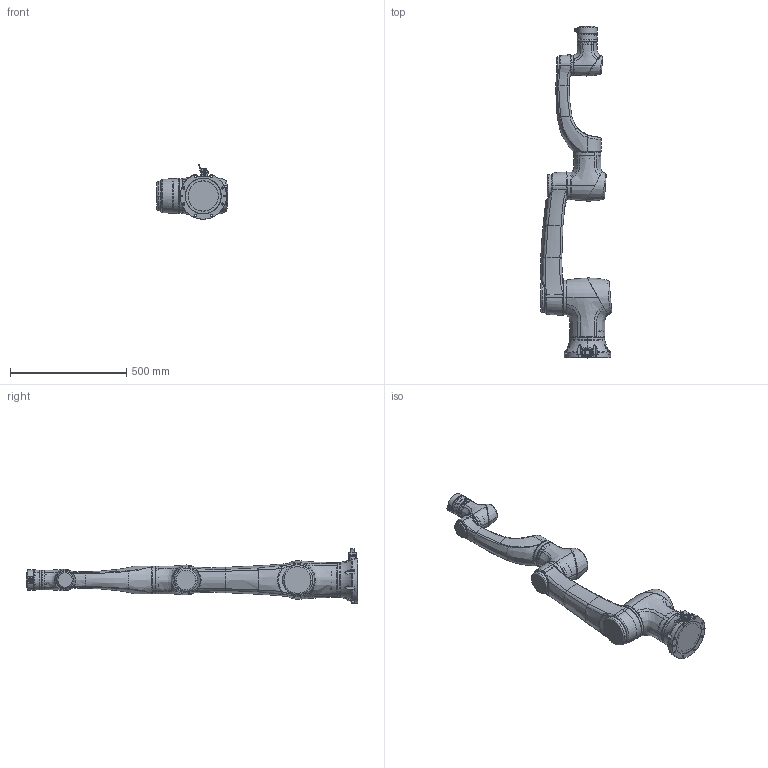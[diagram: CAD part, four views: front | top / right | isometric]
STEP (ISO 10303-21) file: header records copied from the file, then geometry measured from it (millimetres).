
FILE_DESCRIPTION (( 'STEP AP203' ), '1' );
FILE_NAME ('P10_潠趙_full.STEP', '2021-07-12T09:27:34', ( 'hans' ), ( 'hanslaser.com' ), 'SwSTEP 2.0', 'SolidWorks 2020', '' );
FILE_SCHEMA (( 'CONFIG_CONTROL_DESIGN' ));
Length unit declared in the file: millimetre
Products named in the file (8): P_32_潠趙_full; 17_IO藺傷_潠趙_full; P_10kg菁釱_潠趙_full; P10_潠趙_full; P_10kg奻旋_潠趙_full; P_10kg狟旋_潠趙_full; P_25_2_潠趙_full; P_17_潠趙_full
Assembly tree (7 placements, depth 2):
  P10_潠趙_full
    P_10kg菁釱_潠趙_full
    P_10kg奻旋_潠趙_full
    P_10kg狟旋_潠趙_full
    P_25_2_潠趙_full
    P_17_潠趙_full
    P_32_潠趙_full
    17_IO藺傷_潠趙_full
Bounding box: 307.08 x 1428 x 234.44 mm (x, y, z)
Volume: 8244941.3 mm3; surface area: 1936079.9 mm2
Topology: 26 solids, 44 shells, 1924 faces, 4627 edges, 2876 vertices
Faces by surface type: cylinder 585, bspline 576, plane 438, cone 243, torus 68, sphere 14
Entity records: 252784 total; most frequent: CARTESIAN_POINT 211696, ORIENTED_EDGE 9172, DIRECTION 7039, EDGE_CURVE 4588, VERTEX_POINT 2876, AXIS2_PLACEMENT_3D 2860, EDGE_LOOP 2126, FACE_OUTER_BOUND 1924
